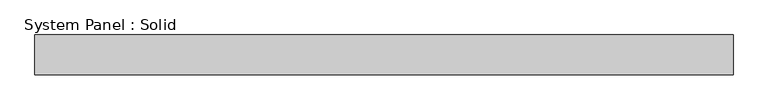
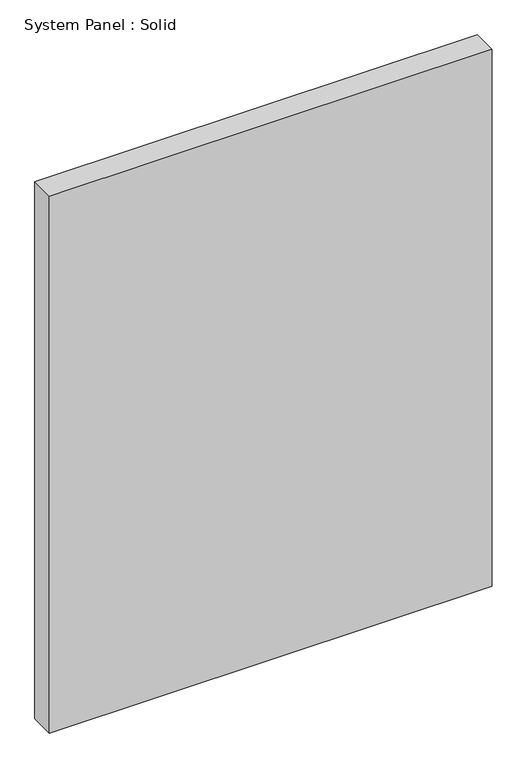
"""IFC4 building model written with IfcOpenShell, lengths in millimetres: plate geometry, System Panel : Solid."""

import ifcopenshell
import ifcopenshell.guid

model = None  # the IFC model being written
_history = None  # IfcOwnerHistory: only IFC2X3 demands one
_inside = {}  # id of a spatial element -> (the spatial element, [elements in it])
_under = {}  # id of a project, library or spatial element -> (it, [spatial elements below it])
_declared = {}  # id of a project -> (the project, [libraries it declares])
_typed = {}  # id of a type object -> (the type object, [elements of that type])
_made_of = {}  # id of a material, layer set ... -> (it, [elements and type objects made of it])


def new_model(schema):
    """Start an empty IFC model of exactly this schema.

    Asked for "IFC4X3", IfcOpenShell would pick the latest addendum, in which some entities
    have other attributes; the version numbers below select the first issue.
    IFC2X3 requires an IfcOwnerHistory on every rooted entity: one is made here for all.
    """
    global model, _history
    if schema == "IFC4X3":
        model = ifcopenshell.file(schema_version=(4, 3, 0, 0))
    else:
        model = ifcopenshell.file(schema=schema)
    _inside.clear()
    _under.clear()
    _declared.clear()
    _typed.clear()
    _made_of.clear()
    _history = None
    if model.schema == "IFC2X3":
        org = make("IfcOrganization", Name="unknown")
        user = make(
            "IfcPersonAndOrganization",
            ThePerson=make("IfcPerson", FamilyName="unknown"),
            TheOrganization=org,
        )
        app = make(
            "IfcApplication",
            ApplicationDeveloper=org,
            Version="unknown",
            ApplicationFullName="unknown",
            ApplicationIdentifier="unknown",
        )
        _history = make(
            "IfcOwnerHistory",
            OwningUser=user,
            OwningApplication=app,
            ChangeAction="ADDED",
            CreationDate=0,
        )
    return model


def make(cls, **values):
    """One entity of the class cls with the attributes given. An attribute that is None is left unset."""
    return model.create_entity(
        cls, **{name: value for name, value in values.items() if value is not None}
    )


def rooted(cls, **values):
    """An entity with a GlobalId (a new one), such as an element, a storey or a relation."""
    return make(cls, GlobalId=ifcopenshell.guid.new(), OwnerHistory=_history, **values)


def si_unit(unit_type, name, prefix=None):
    """IfcSIUnit, for example si_unit("LENGTHUNIT", "METRE", prefix="MILLI")."""
    return make("IfcSIUnit", UnitType=unit_type, Prefix=prefix, Name=name)


def assignment(units):
    """IfcUnitAssignment: the units of a project."""
    return None if units is None else make("IfcUnitAssignment", Units=units)


def point(xyz):
    """IfcCartesianPoint."""
    return None if xyz is None else make("IfcCartesianPoint", Coordinates=xyz)


def direction(xyz):
    """IfcDirection."""
    return None if xyz is None else make("IfcDirection", DirectionRatios=xyz)


def frame(location, z_axis=None, x_axis=None):
    """IfcAxis2Placement3D, a coordinate frame: its origin and axes. An axis left out is left unset."""
    return make(
        "IfcAxis2Placement3D",
        Location=point(location),
        Axis=direction(z_axis),
        RefDirection=direction(x_axis),
    )


def origin():
    """The frame at (0, 0, 0) with its axes left unset."""
    return frame((0.0, 0.0, 0.0))


def origin_with_axes():
    """The frame at (0, 0, 0) with the z axis (0, 0, 1) and the x axis (1, 0, 0) written out."""
    return frame((0.0, 0.0, 0.0), z_axis=(0.0, 0.0, 1.0), x_axis=(1.0, 0.0, 0.0))


def place(relative_to, where):
    """IfcLocalPlacement: puts the frame where relative to a parent placement (None: the world)."""
    return make(
        "IfcLocalPlacement", PlacementRelTo=relative_to, RelativePlacement=where
    )


def context(
    kind, dimensions, precision=None, world=None, true_north=None, identifier=None
):
    """IfcGeometricRepresentationContext, for example the 3D "Model" context."""
    return make(
        "IfcGeometricRepresentationContext",
        ContextIdentifier=identifier,
        ContextType=kind,
        CoordinateSpaceDimension=dimensions,
        Precision=precision,
        WorldCoordinateSystem=world,
        TrueNorth=true_north,
    )


def project(units=None, contexts=None):
    """IfcProject with its units and contexts."""
    return rooted(
        "IfcProject",
        Name="project",
        RepresentationContexts=contexts,
        UnitsInContext=assignment(units),
    )


def spatial(cls, under=None, at=None, **own):
    """A site, building, storey or space (cls), placed at a placement, below another one or the project."""
    s = rooted(cls, ObjectPlacement=at, **own)
    if under is not None:
        _under.setdefault(under.id(), (under, []))[1].append(s)
    return s


def polyline(points):
    """IfcPolyline through the points."""
    return make("IfcPolyline", Points=[point(p) for p in points])


def outline(outer, holes=None, kind="AREA"):
    """IfcArbitraryClosedProfileDef: a profile drawn as a closed curve; with holes, ...WithVoids."""
    if holes is None:
        return make("IfcArbitraryClosedProfileDef", ProfileType=kind, OuterCurve=outer)
    return make(
        "IfcArbitraryProfileDefWithVoids",
        ProfileType=kind,
        OuterCurve=outer,
        InnerCurves=holes,
    )


def extrude(swept, where, along, depth):
    """IfcExtrudedAreaSolid: the profile swept, set in the frame where, extruded along a direction by depth."""
    return make(
        "IfcExtrudedAreaSolid",
        SweptArea=swept,
        Position=where,
        ExtrudedDirection=direction(along),
        Depth=depth,
    )


def shape(context_of_items, identifier, shape_type, items):
    """IfcShapeRepresentation: the items that make up one representation, for example the "Body"."""
    return make(
        "IfcShapeRepresentation",
        ContextOfItems=context_of_items,
        RepresentationIdentifier=identifier,
        RepresentationType=shape_type,
        Items=items,
    )


def source(mapping_origin, context_of_items, identifier, shape_type, items):
    """IfcRepresentationMap: a shape defined once, which mapped items show again and again."""
    return make(
        "IfcRepresentationMap",
        MappingOrigin=mapping_origin,
        MappedRepresentation=shape(context_of_items, identifier, shape_type, items),
    )


def transform(
    local_origin,
    x_axis=None,
    y_axis=None,
    z_axis=None,
    scale=None,
    scale2=None,
    scale3=None,
    uniform=True,
):
    """IfcCartesianTransformationOperator3D, or its non-uniform kind. x_axis, y_axis, z_axis: its Axis1, 2, 3."""
    if uniform:
        return make(
            "IfcCartesianTransformationOperator3D",
            Axis1=direction(x_axis),
            Axis2=direction(y_axis),
            LocalOrigin=point(local_origin),
            Scale=scale,
            Axis3=direction(z_axis),
        )
    return make(
        "IfcCartesianTransformationOperator3DnonUniform",
        Axis1=direction(x_axis),
        Axis2=direction(y_axis),
        LocalOrigin=point(local_origin),
        Scale=scale,
        Axis3=direction(z_axis),
        Scale2=scale2,
        Scale3=scale3,
    )


def mapped(mapping_source, mapping_target):
    """IfcMappedItem: shows the shape of a source again, moved by a transform."""
    return make(
        "IfcMappedItem", MappingSource=mapping_source, MappingTarget=mapping_target
    )


def made_of(thing, what):
    """Note that an element or type object is made of a material, layer set ...; save() writes the relation."""
    if what is not None:
        _made_of.setdefault(what.id(), (what, []))[1].append(thing)
    return thing


def element(
    cls,
    number,
    at=None,
    inside=None,
    cuts=None,
    type_object=None,
    material=None,
    context=None,
    identifier="Body",
    shape_type=None,
    held_by="IfcProductDefinitionShape",
    body=None,
    shapes=None,
    **own,
):
    """One element of the class cls, such as IfcWall. Its Tag is "e" and its number.

    at: its placement. inside: the storey or other place that contains it. cuts: it is an
    opening in that element (IfcRelVoidsElement). A single representation is given by context,
    identifier, shape_type and body (its items); several are given by shapes. held_by: the class
    of the entity that holds the representations. save() writes the other relations.
    """
    e = rooted(cls, Tag="e%d" % number, ObjectPlacement=at, **own)
    if body is not None:
        shapes = [shape(context, identifier, shape_type, body)]
    if shapes is not None:
        e.Representation = make(held_by, Representations=shapes)
    if inside is not None:
        _inside.setdefault(inside.id(), (inside, []))[1].append(e)
    if cuts is not None:
        rooted(
            "IfcRelVoidsElement", RelatingBuildingElement=cuts, RelatedOpeningElement=e
        )
    if type_object is not None:
        _typed.setdefault(type_object.id(), (type_object, []))[1].append(e)
    return made_of(e, material)


def aggregate(whole, parts):
    """IfcRelAggregates: a whole, such as a stair, and the parts it consists of."""
    return rooted("IfcRelAggregates", RelatingObject=whole, RelatedObjects=parts)


def save(model, path):
    """Write the relations noted so far, then the file.

    IfcRelAggregates (storeys below a building ...), IfcRelContainedInSpatialStructure (elements
    in a storey), IfcRelDefinesByType, IfcRelAssociatesMaterial and IfcRelDeclares: one each for
    every whole, place, type object, material and project.
    """
    for whole, parts in _under.values():
        aggregate(whole, parts)
    for where, things in _inside.values():
        rooted(
            "IfcRelContainedInSpatialStructure",
            RelatedElements=things,
            RelatingStructure=where,
        )
    for kind, things in _typed.values():
        rooted("IfcRelDefinesByType", RelatedObjects=things, RelatingType=kind)
    for what, things in _made_of.values():
        rooted("IfcRelAssociatesMaterial", RelatedObjects=things, RelatingMaterial=what)
    for by, libraries in _declared.values():
        rooted("IfcRelDeclares", RelatingContext=by, RelatedDefinitions=libraries)
    model.write(path)


def system_panel_solid_dd9a2193(model_context):
    return source(origin(), model_context, "Body", "SweptSolid", [
        extrude(outline(polyline([(557.2124999, -44.45), (-557.2124999, -44.45), (-557.2124999, 19.05), (557.2124999, 19.05), (557.2124999, -44.45)])), origin_with_axes(), (0.0, 0.0, 1.0), 1428.75),
    ])


if __name__ == "__main__":
    model = new_model("IFC4")
    model_context = context("Model", 3, world=origin())
    ifc_project = project(units=[si_unit("LENGTHUNIT", "METRE", prefix="MILLI")], contexts=[model_context])
    site = spatial("IfcSite", under=ifc_project)
    building = spatial("IfcBuilding", under=site)
    placement = place(None, origin())
    system_panel_solid_shape = system_panel_solid_dd9a2193(model_context)
    element("IfcPlate", 1, ObjectType="System Panel : Solid", at=placement, inside=building, context=model_context, shape_type="MappedRepresentation", body=[
        mapped(system_panel_solid_shape, transform((0.0, 0.0, 0.0), x_axis=(1.0, 0.0, 0.0), y_axis=(0.0, 1.0, 0.0), z_axis=(0.0, 0.0, 1.0))),
    ])
    save(model, "model.ifc")
